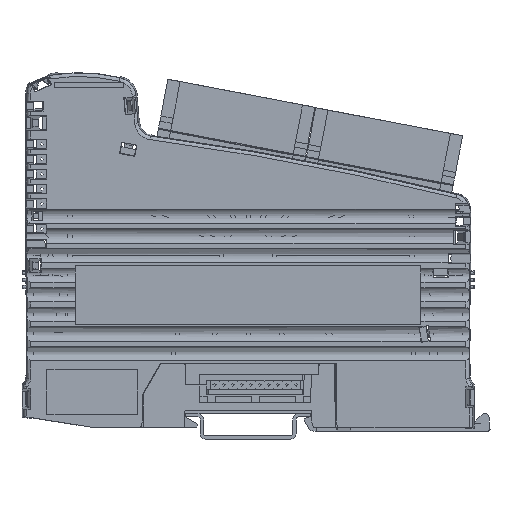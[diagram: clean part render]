
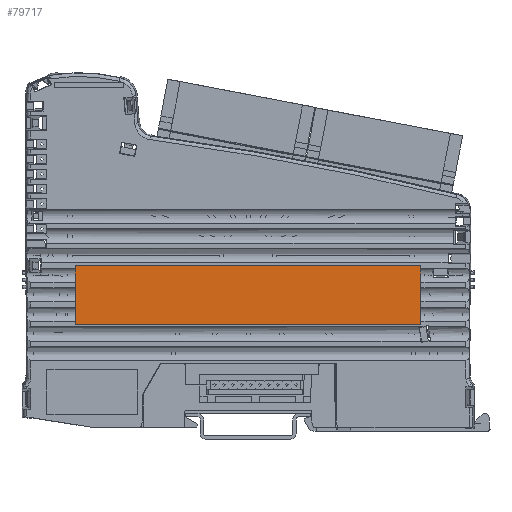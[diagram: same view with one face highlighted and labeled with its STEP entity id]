
A CAD part, left-side view. The second image highlights one B-rep face of the part: STEP entity #79717.
In plain terms, the highlighted planar face has unit normal (-1, 0, 0).
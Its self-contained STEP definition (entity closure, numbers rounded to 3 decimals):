
#7718=ORIENTED_EDGE('',*,*,#29505,.T.);
#7719=ORIENTED_EDGE('',*,*,#29504,.T.);
#7720=ORIENTED_EDGE('',*,*,#29507,.T.);
#7721=ORIENTED_EDGE('',*,*,#29499,.T.);
#7722=ORIENTED_EDGE('',*,*,#29501,.T.);
#7723=ORIENTED_EDGE('',*,*,#29502,.T.);
#7724=ORIENTED_EDGE('',*,*,#29508,.T.);
#7725=ORIENTED_EDGE('',*,*,#29509,.T.);
#7726=ORIENTED_EDGE('',*,*,#29510,.T.);
#7727=ORIENTED_EDGE('',*,*,#29506,.T.);
#29499=EDGE_CURVE('',#40670,#39808,#48742,.T.);
#29501=EDGE_CURVE('',#39808,#39815,#48744,.T.);
#29502=EDGE_CURVE('',#39815,#39818,#48745,.T.);
#29504=EDGE_CURVE('',#40667,#40671,#48747,.T.);
#29505=EDGE_CURVE('',#40668,#40667,#48748,.T.);
#29506=EDGE_CURVE('',#40669,#40668,#48749,.T.);
#29507=EDGE_CURVE('',#40671,#40670,#48750,.T.);
#29508=EDGE_CURVE('',#39818,#40672,#48751,.T.);
#29509=EDGE_CURVE('',#40672,#40673,#48752,.T.);
#29510=EDGE_CURVE('',#40673,#40669,#48753,.T.);
#39808=VERTEX_POINT('',#125380);
#39815=VERTEX_POINT('',#125485);
#39818=VERTEX_POINT('',#125592);
#40667=VERTEX_POINT('',#130429);
#40668=VERTEX_POINT('',#130433);
#40669=VERTEX_POINT('',#130437);
#40670=VERTEX_POINT('',#130442);
#40671=VERTEX_POINT('',#130450);
#40672=VERTEX_POINT('',#130459);
#40673=VERTEX_POINT('',#130461);
#48742=LINE('',#130441,#58038);
#48744=LINE('',#130445,#58040);
#48745=LINE('',#130447,#58041);
#48747=LINE('',#130451,#58043);
#48748=LINE('',#130453,#58044);
#48749=LINE('',#130455,#58045);
#48750=LINE('',#130457,#58046);
#48751=LINE('',#130458,#58047);
#48752=LINE('',#130460,#58048);
#48753=LINE('',#130462,#58049);
#58038=VECTOR('',#105941,1000.);
#58040=VECTOR('',#105945,1000.);
#58041=VECTOR('',#105948,1000.);
#58043=VECTOR('',#105952,1000.);
#58044=VECTOR('',#105955,1000.);
#58045=VECTOR('',#105958,1000.);
#58046=VECTOR('',#105961,1000.);
#58047=VECTOR('',#105962,1000.);
#58048=VECTOR('',#105963,1000.);
#58049=VECTOR('',#105964,1000.);
#66403=EDGE_LOOP('',(#7718,#7719,#7720,#7721,#7722,#7723,#7724,#7725,#7726,
#7727));
#71393=FACE_BOUND('',#66403,.T.);
#76194=PLANE('',#97291);
#79717=ADVANCED_FACE('',(#71393),#76194,.T.);
#97291=AXIS2_PLACEMENT_3D('',#130456,#105959,#105960);
#105941=DIRECTION('',(0.,0.,-1.));
#105945=DIRECTION('',(0.,0.,-1.));
#105948=DIRECTION('',(0.,0.,-1.));
#105952=DIRECTION('',(0.,0.,1.));
#105955=DIRECTION('',(0.,0.,1.));
#105958=DIRECTION('',(0.,0.,1.));
#105959=DIRECTION('',(-1.,0.,0.));
#105960=DIRECTION('',(0.,-1.,0.));
#105961=DIRECTION('',(0.,1.,0.));
#105962=DIRECTION('',(0.,0.,-1.));
#105963=DIRECTION('',(0.,-1.,0.));
#105964=DIRECTION('',(0.,0.,1.));
#125380=CARTESIAN_POINT('',(-11.5,48.483,42.8));
#125485=CARTESIAN_POINT('',(-11.5,48.483,37.3));
#125592=CARTESIAN_POINT('',(-11.5,48.483,31.8));
#130429=CARTESIAN_POINT('',(-11.5,-48.483,42.8));
#130433=CARTESIAN_POINT('',(-11.5,-48.483,37.3));
#130437=CARTESIAN_POINT('',(-11.5,-48.483,31.8));
#130441=CARTESIAN_POINT('',(-11.5,48.483,29.));
#130442=CARTESIAN_POINT('',(-11.5,48.483,45.483));
#130445=CARTESIAN_POINT('',(-11.5,48.483,29.));
#130447=CARTESIAN_POINT('',(-11.5,48.483,29.));
#130450=CARTESIAN_POINT('',(-11.5,-48.483,45.483));
#130451=CARTESIAN_POINT('',(-11.5,-48.483,29.));
#130453=CARTESIAN_POINT('',(-11.5,-48.483,29.));
#130455=CARTESIAN_POINT('',(-11.5,-48.483,29.));
#130456=CARTESIAN_POINT('',(-11.5,48.5,29.));
#130457=CARTESIAN_POINT('',(-11.5,48.5,45.483));
#130458=CARTESIAN_POINT('',(-11.5,48.483,29.));
#130459=CARTESIAN_POINT('',(-11.5,48.483,29.017));
#130460=CARTESIAN_POINT('',(-11.5,48.5,29.017));
#130461=CARTESIAN_POINT('',(-11.5,-48.483,29.017));
#130462=CARTESIAN_POINT('',(-11.5,-48.483,29.));
